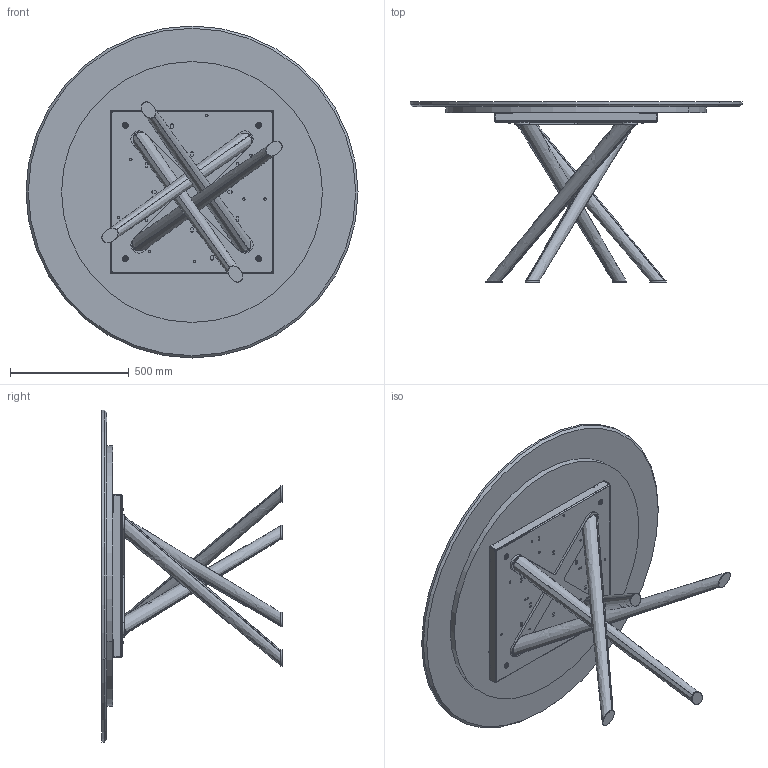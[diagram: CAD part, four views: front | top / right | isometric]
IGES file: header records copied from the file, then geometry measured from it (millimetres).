
Start section: SolidWorks IGES file using analytic representation for surfaces
Global section: file name: Y:\eforma\TECNICO\SOLIDWORKS\E-FORMA\1-TAVOLI\BALY\02 parts\BA06M.IGS; native system: SolidWorks 2022; preprocessor: SolidWorks 2022; author: eforma.tech; date: 240808.083652; units: millimetre
Bounding box: 1400 x 760 x 1400 mm (x, y, z)
Volume: 59001463.4 mm3; surface area: 7942605.1 mm2
Topology: 24 solids, 24 shells, 715 faces, 1831 edges, 1155 vertices
Faces by surface type: revolution 395, plane 312, bspline 8
